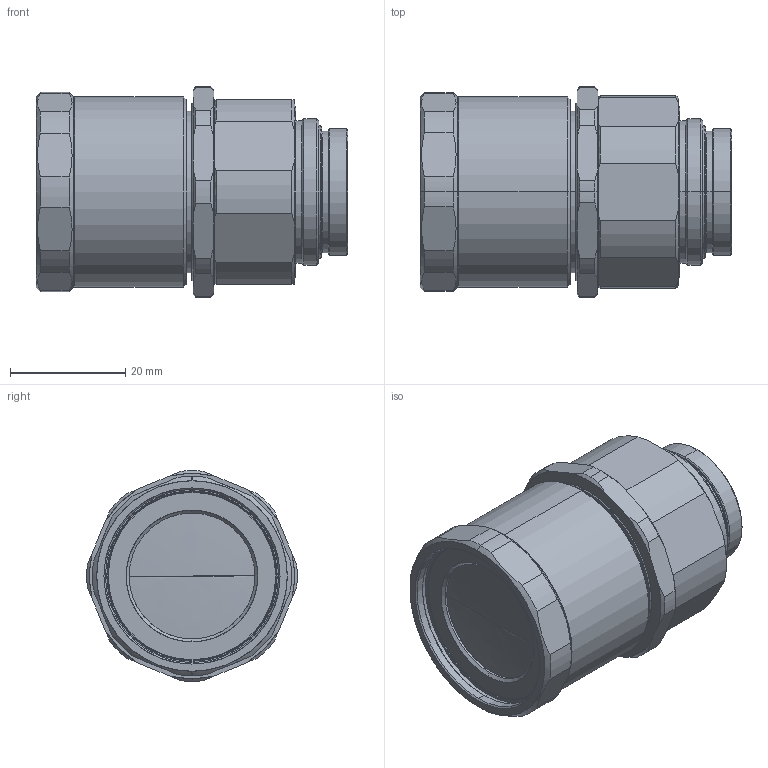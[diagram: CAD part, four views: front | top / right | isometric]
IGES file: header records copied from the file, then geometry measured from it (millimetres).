
Start section: SolidWorks IGES file using analytic representation for surfaces
Global section: file name: C:\Users\tsuji_vst\Documents\【作業フォルダ】\【3D】\00 VST\MCH1\VS-MC16H1\VS-MC16H1.IGS; native system: SolidWorks 2018; preprocessor: SolidWorks 2018; author: tsuji_vst; date: 181204.163453; units: millimetre
Bounding box: 54.04 x 36.48 x 36.5 mm (x, y, z)
Surface area: 9049 mm2 (no closed solid volume)
Topology: 0 solids, 0 shells, 165 faces, 2396 edges, 2394 vertices
Faces by surface type: revolution 126, bspline 39
